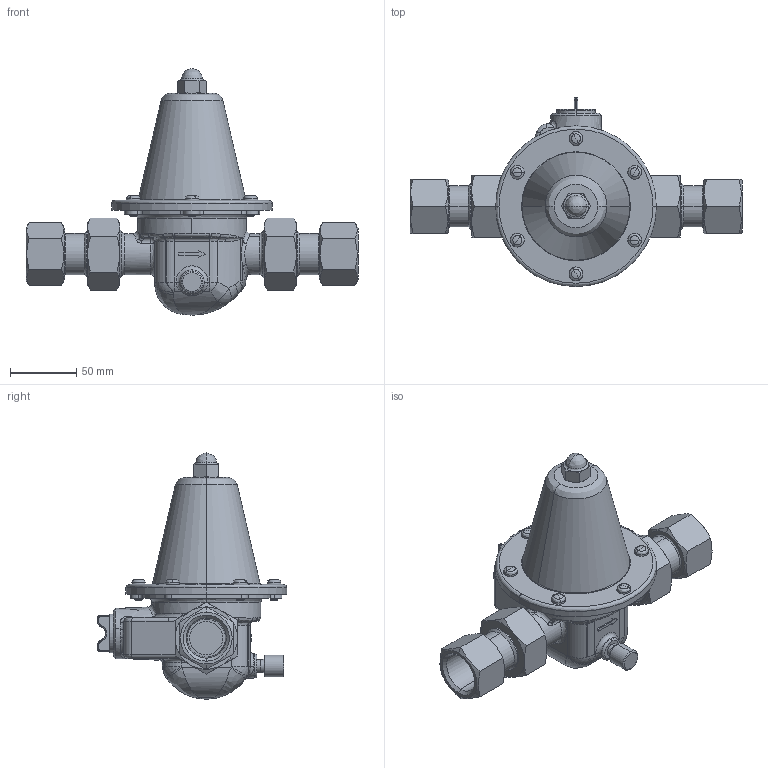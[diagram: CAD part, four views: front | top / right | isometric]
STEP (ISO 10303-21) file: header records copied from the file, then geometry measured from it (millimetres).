
FILE_DESCRIPTION( (''), '2;1');
FILE_NAME ('PC1027.14056.GD-25GJ-K_5808.stp','2025-08-04T18:17:12',(''),(''),'spGate 20.6.3 (****-****-****-****)','','');
FILE_SCHEMA (('AUTOMOTIVE_DESIGN'));
Length unit declared in the file: millimetre
Products named in the file (7): Assembly; GD-25GJ 弁箱; GD-25GJ ばねカバー; GD-25GJ ガスケット; GD-25GJ-K ユニオンソケット; GD-25GJ ユニオンナット; GD-25GJ なべ小ねじ
Assembly tree (14 placements, depth 2):
  Assembly
    GD-25GJ 弁箱
    GD-25GJ ばねカバー
    GD-25GJ ガスケット  x2
    GD-25GJ-K ユニオンソケット  x2
    GD-25GJ ユニオンナット  x2
    GD-25GJ なべ小ねじ  x6
Bounding box: 250 x 142.5 x 185.5 mm (x, y, z)
Volume: 871168.2 mm3; surface area: 142497.2 mm2
Topology: 14 solids, 14 shells, 544 faces, 1252 edges, 717 vertices
Faces by surface type: bspline 279, cylinder 156, plane 96, sphere 13
Entity records: 24008 total; most frequent: CARTESIAN_POINT 7942, ORIENTED_EDGE 1874, DIRECTION 1557, COLOUR_RGB 1349, PRESENTATION_STYLE_ASSIGNMENT 1349, STYLED_ITEM 1349, EDGE_CURVE 937, DRAUGHTING_PRE_DEFINED_CURVE_FONT 937
